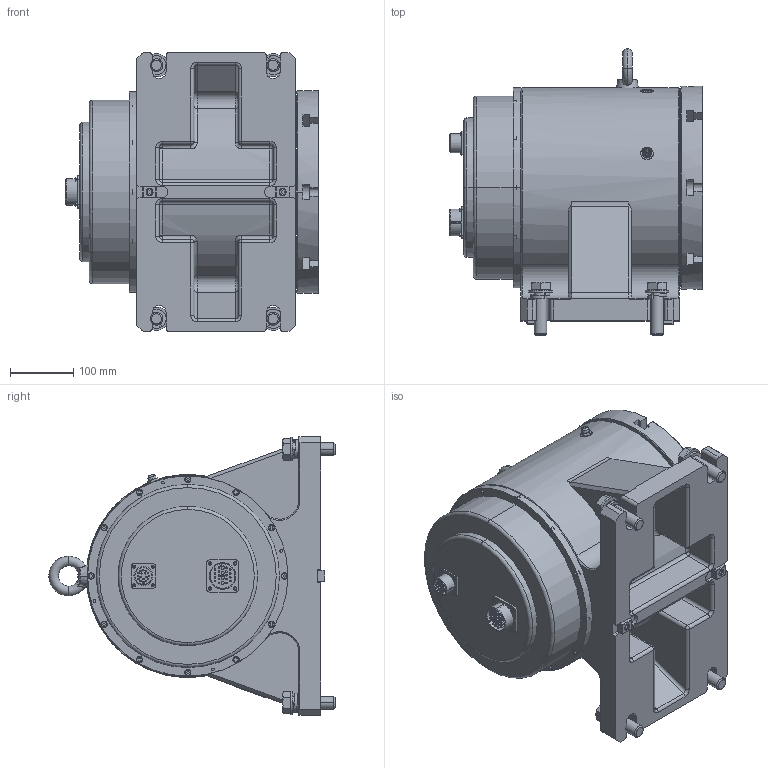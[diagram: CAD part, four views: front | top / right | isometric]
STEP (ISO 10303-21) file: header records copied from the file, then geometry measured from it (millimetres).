
FILE_DESCRIPTION (( 'STEP AP214' ), '1' );
FILE_NAME ('KCR-320FFDF 軞蚾饜芞.STEP', '2021-11-22T07:22:47', ( '' ), ( '' ), 'SwSTEP 2.0', 'SolidWorks 2020', '' );
FILE_SCHEMA (( 'AUTOMOTIVE_DESIGN' ));
Length unit declared in the file: millimetre
Products named in the file (1): KCR-320FFDF 軞蚾饜芞
Bounding box: 400.05 x 451.7 x 440 mm (x, y, z)
Volume: 11993446.6 mm3; surface area: 1843641.7 mm2
Topology: 76 solids, 76 shells, 2868 faces, 6696 edges, 4177 vertices
Faces by surface type: plane 1201, cylinder 863, cone 303, torus 262, bspline 225, sphere 14
Entity records: 126297 total; most frequent: CARTESIAN_POINT 28828, DIRECTION 13673, ORIENTED_EDGE 13180, EDGE_CURVE 6590, AXIS2_PLACEMENT_3D 5099, VERTEX_POINT 4177, LINE 3475, VECTOR 3475
